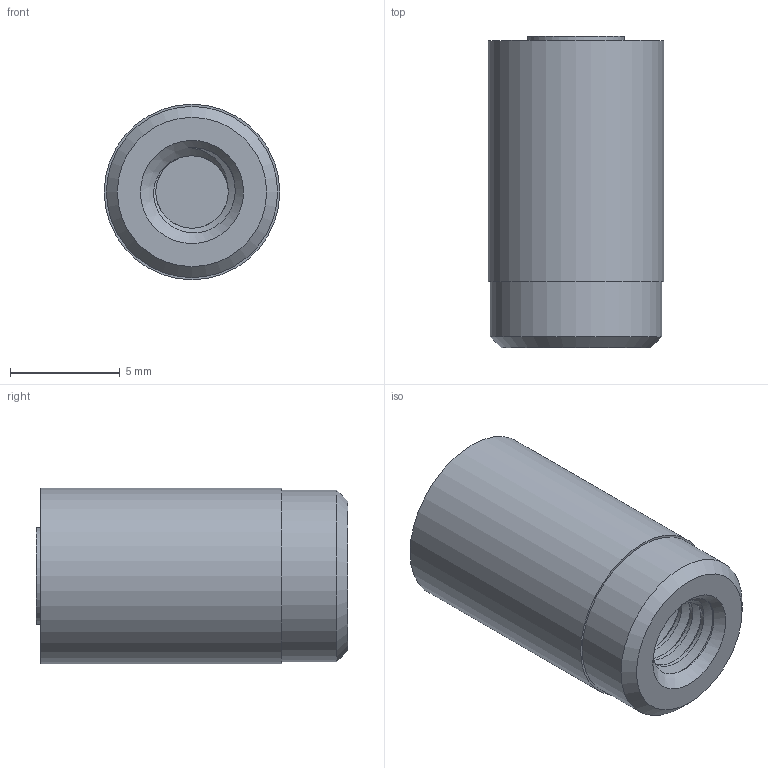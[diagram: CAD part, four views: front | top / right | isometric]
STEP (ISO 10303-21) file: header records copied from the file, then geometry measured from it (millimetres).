
FILE_DESCRIPTION (( 'STEP AP214' ), '1' );
FILE_NAME ('DKH-8.STEP', '2018-10-09T18:01:09', ( '' ), ( '' ), 'SwSTEP 2.0', 'SolidWorks 2017', '' );
FILE_SCHEMA (( 'AUTOMOTIVE_DESIGN' ));
Length unit declared in the file: millimetre
Products named in the file (1): DKH-8
Bounding box: 8 x 14.2 x 8 mm (x, y, z)
Volume: 653.3 mm3; surface area: 512.2 mm2
Topology: 1 solids, 1 shells, 86 faces, 221 edges, 147 vertices
Faces by surface type: plane 44, cylinder 37, bspline 3, cone 2
Full cylindrical faces by diameter (mm): 3.3 x4, 4.4 x1, 7.8 x1, 8 x1
Entity records: 3380 total; most frequent: CARTESIAN_POINT 1455, ORIENTED_EDGE 402, DIRECTION 294, EDGE_CURVE 201, VERTEX_POINT 137, LINE 114, VECTOR 114, EDGE_LOOP 98
